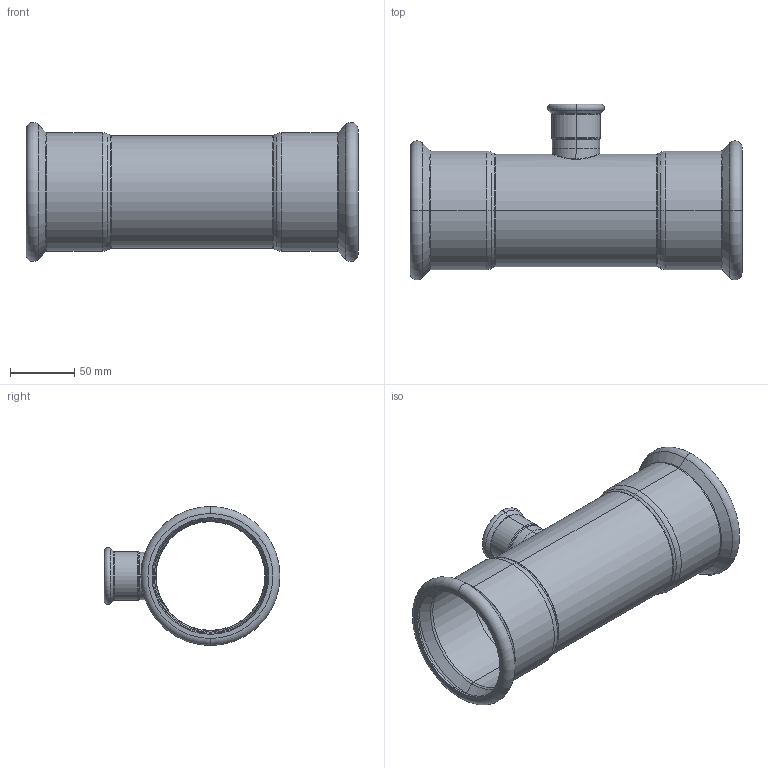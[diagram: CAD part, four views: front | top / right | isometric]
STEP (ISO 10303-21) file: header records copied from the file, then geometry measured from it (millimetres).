
FILE_DESCRIPTION (( 'STEP AP203' ), '1' );
FILE_NAME ('GDA5219.STEP', '2019-01-12T06:12:02', ( '' ), ( '' ), 'SwSTEP 2.0', 'SolidWorks 2015', '' );
FILE_SCHEMA (( 'CONFIG_CONTROL_DESIGN' ));
Length unit declared in the file: millimetre
Products named in the file (3): GDA5219; T(R)-¢ñ-88.9¡Á35''; T-ｉ-01-35
Assembly tree (2 placements, depth 2):
  GDA5219
    T(R)-¢ñ-88.9¡Á35''
    T-ｉ-01-35
Bounding box: 259 x 137.24 x 108.48 mm (x, y, z)
Volume: 124361.7 mm3; surface area: 166752.8 mm2
Topology: 2 solids, 2 shells, 114 faces, 234 edges, 128 vertices
Faces by surface type: torus 48, cylinder 30, cone 24, plane 8, bspline 4
Entity records: 4372 total; most frequent: CARTESIAN_POINT 1582, DIRECTION 620, ORIENTED_EDGE 468, AXIS2_PLACEMENT_3D 283, EDGE_CURVE 234, CIRCLE 168, VERTEX_POINT 128, EDGE_LOOP 124
